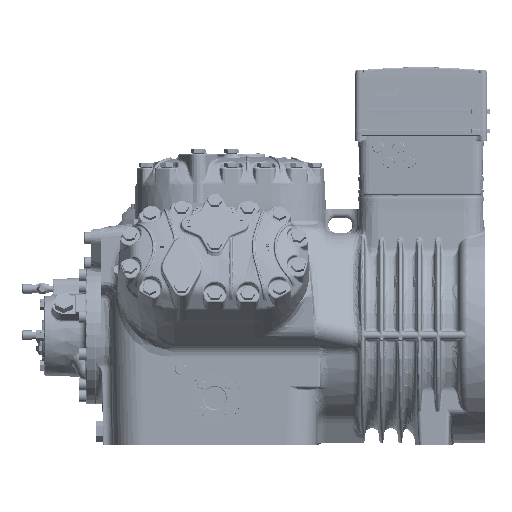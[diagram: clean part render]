
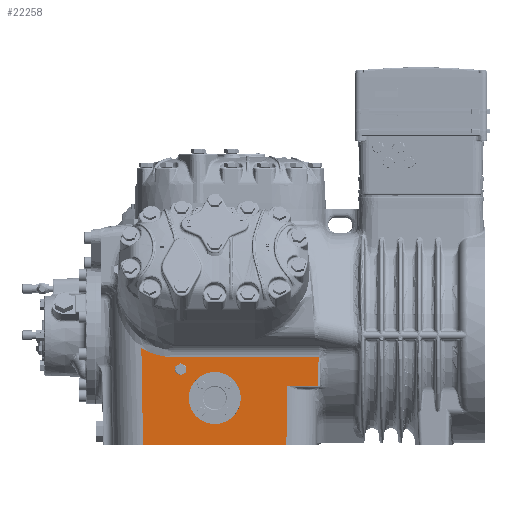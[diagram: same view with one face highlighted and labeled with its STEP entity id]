
A CAD part, front view. The second image highlights one B-rep face of the part: STEP entity #22258.
In plain terms, the highlighted planar face has unit normal (0, -1, -0.018).
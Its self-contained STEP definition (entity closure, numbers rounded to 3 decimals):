
#16375=ELLIPSE('',#155885,34.505,34.5);
#16389=ELLIPSE('',#155992,109.612,93.944);
#17533=FACE_BOUND('',#42246,.T.);
#17534=FACE_BOUND('',#42247,.T.);
#17535=FACE_BOUND('',#42248,.T.);
#22258=ADVANCED_FACE('',(#17533,#17534,#17535),#29377,.T.);
#29377=PLANE('',#155994);
#42246=EDGE_LOOP('',(#80235,#80236,#80237,#80238));
#42247=EDGE_LOOP('',(#80239));
#42248=EDGE_LOOP('',(#80240,#80241,#80242,#80243,#80244,#80245,#80246));
#57598=LINE('',#244553,#64169);
#57600=LINE('',#244556,#64171);
#57601=LINE('',#244558,#64172);
#57605=LINE('',#244675,#64176);
#57693=LINE('',#246883,#64281);
#57694=LINE('',#246885,#64282);
#64169=VECTOR('',#173428,1.);
#64171=VECTOR('',#173432,1.);
#64172=VECTOR('',#173435,1.);
#64176=VECTOR('',#173457,1.);
#64281=VECTOR('',#173764,1.);
#64282=VECTOR('',#173765,1.);
#80235=ORIENTED_EDGE('',*,*,#130563,.T.);
#80236=ORIENTED_EDGE('',*,*,#130564,.T.);
#80237=ORIENTED_EDGE('',*,*,#130565,.T.);
#80238=ORIENTED_EDGE('',*,*,#130566,.T.);
#80239=ORIENTED_EDGE('',*,*,#130306,.F.);
#80240=ORIENTED_EDGE('',*,*,#130567,.T.);
#80241=ORIENTED_EDGE('',*,*,#130568,.T.);
#80242=ORIENTED_EDGE('',*,*,#130320,.T.);
#80243=ORIENTED_EDGE('',*,*,#130305,.T.);
#80244=ORIENTED_EDGE('',*,*,#130304,.T.);
#80245=ORIENTED_EDGE('',*,*,#130302,.T.);
#80246=ORIENTED_EDGE('',*,*,#130555,.T.);
#114663=VERTEX_POINT('',#241808);
#114678=VERTEX_POINT('',#241944);
#114829=VERTEX_POINT('',#244530);
#114831=VERTEX_POINT('',#244552);
#114832=VERTEX_POINT('',#244561);
#114840=VERTEX_POINT('',#244676);
#114968=VERTEX_POINT('',#246716);
#114974=VERTEX_POINT('',#246858);
#114975=VERTEX_POINT('',#246859);
#114976=VERTEX_POINT('',#246870);
#114977=VERTEX_POINT('',#246876);
#114978=VERTEX_POINT('',#246884);
#130302=EDGE_CURVE('',#114829,#114831,#57598,.T.);
#130304=EDGE_CURVE('',#114663,#114829,#57600,.T.);
#130305=EDGE_CURVE('',#114678,#114663,#57601,.T.);
#130306=EDGE_CURVE('',#114832,#114832,#16375,.T.);
#130320=EDGE_CURVE('',#114840,#114678,#57605,.T.);
#130555=EDGE_CURVE('',#114831,#114968,#16389,.T.);
#130563=EDGE_CURVE('',#114974,#114975,#148895,.T.);
#130564=EDGE_CURVE('',#114975,#114976,#148896,.T.);
#130565=EDGE_CURVE('',#114976,#114977,#148897,.T.);
#130566=EDGE_CURVE('',#114977,#114974,#148898,.T.);
#130567=EDGE_CURVE('',#114968,#114978,#57693,.T.);
#130568=EDGE_CURVE('',#114978,#114840,#57694,.T.);
#148895=B_SPLINE_CURVE_WITH_KNOTS('',3,(#246848,#246849,#246850,#246851,
#246852,#246853,#246854,#246855,#246856,#246857),.UNSPECIFIED.,.F.,.F.,
(4,2,2,2,4),(0.,0.25,0.5,0.75,1.),.UNSPECIFIED.);
#148896=B_SPLINE_CURVE_WITH_KNOTS('',3,(#246860,#246861,#246862,#246863,
#246864,#246865,#246866,#246867,#246868,#246869),.UNSPECIFIED.,.F.,.F.,
(4,2,2,2,4),(0.,0.25,0.5,0.75,1.),.UNSPECIFIED.);
#148897=B_SPLINE_CURVE_WITH_KNOTS('',3,(#246871,#246872,#246873,#246874,
#246875),.UNSPECIFIED.,.F.,.F.,(4,1,4),(0.,0.5,1.),.UNSPECIFIED.);
#148898=B_SPLINE_CURVE_WITH_KNOTS('',3,(#246877,#246878,#246879,#246880,
#246881,#246882),.UNSPECIFIED.,.F.,.F.,(4,2,4),(0.,0.5,1.),
 .UNSPECIFIED.);
#155885=AXIS2_PLACEMENT_3D('',#244560,#173438,#173439);
#155992=AXIS2_PLACEMENT_3D('',#246718,#173760,#173761);
#155994=AXIS2_PLACEMENT_3D('',#246886,#173766,#173767);
#173428=DIRECTION('',(-1.,0.,0.));
#173432=DIRECTION('',(0.017,-0.017,1.));
#173435=DIRECTION('',(1.,0.,0.));
#173438=DIRECTION('',(0.,-1.,-0.017));
#173439=DIRECTION('',(0.,0.017,-1.));
#173457=DIRECTION('',(0.017,-0.017,1.));
#173760=DIRECTION('',(0.,1.,0.017));
#173761=DIRECTION('',(0.,0.017,-1.));
#173764=DIRECTION('',(0.017,0.017,-1.));
#173765=DIRECTION('',(1.,0.,0.));
#173766=DIRECTION('',(0.,-1.,-0.017));
#173767=DIRECTION('',(0.,0.017,-1.));
#241808=CARTESIAN_POINT('',(-93.948,-126.361,-67.052));
#241944=CARTESIAN_POINT('',(-134.633,-126.361,-67.052));
#244530=CARTESIAN_POINT('',(-93.284,-127.025,-29.007));
#244552=CARTESIAN_POINT('',(-285.,-127.025,-29.007));
#244553=CARTESIAN_POINT('',(-108.5,-127.025,-29.007));
#244556=CARTESIAN_POINT('',(-95.313,-124.996,-145.23));
#244558=CARTESIAN_POINT('',(-108.5,-126.361,-67.052));
#244560=CARTESIAN_POINT('',(-231.,-126.082,-83.));
#244561=CARTESIAN_POINT('',(-231.,-125.48,-117.5));
#244675=CARTESIAN_POINT('',(-135.986,-125.008,-144.52));
#244676=CARTESIAN_POINT('',(-135.994,-125.,-145.));
#246716=CARTESIAN_POINT('',(-328.245,-127.239,-16.705));
#246718=CARTESIAN_POINT('',(-285.,-128.938,80.588));
#246848=CARTESIAN_POINT('',(-282.858,-126.745,-45.011));
#246849=CARTESIAN_POINT('',(-282.861,-126.777,-43.19));
#246850=CARTESIAN_POINT('',(-282.139,-126.808,-41.442));
#246851=CARTESIAN_POINT('',(-279.568,-126.853,-38.867));
#246852=CARTESIAN_POINT('',(-277.819,-126.865,-38.142));
#246853=CARTESIAN_POINT('',(-274.18,-126.865,-38.142));
#246854=CARTESIAN_POINT('',(-272.432,-126.853,-38.867));
#246855=CARTESIAN_POINT('',(-269.861,-126.808,-41.443));
#246856=CARTESIAN_POINT('',(-269.139,-126.777,-43.192));
#246857=CARTESIAN_POINT('',(-269.142,-126.745,-45.012));
#246858=CARTESIAN_POINT('',(-282.858,-126.745,-45.011));
#246859=CARTESIAN_POINT('',(-269.142,-126.745,-45.012));
#246860=CARTESIAN_POINT('',(-269.142,-126.745,-45.012));
#246861=CARTESIAN_POINT('',(-269.139,-126.717,-46.621));
#246862=CARTESIAN_POINT('',(-269.732,-126.689,-48.228));
#246863=CARTESIAN_POINT('',(-271.79,-126.647,-50.668));
#246864=CARTESIAN_POINT('',(-273.297,-126.632,-51.518));
#246865=CARTESIAN_POINT('',(-276.439,-126.622,-52.053));
#246866=CARTESIAN_POINT('',(-278.128,-126.628,-51.726));
#246867=CARTESIAN_POINT('',(-280.888,-126.657,-50.097));
#246868=CARTESIAN_POINT('',(-281.949,-126.679,-48.783));
#246869=CARTESIAN_POINT('',(-282.481,-126.706,-47.25));
#246870=CARTESIAN_POINT('',(-282.48,-126.706,-47.25));
#246871=CARTESIAN_POINT('',(-282.481,-126.706,-47.25));
#246872=CARTESIAN_POINT('',(-282.533,-126.709,-47.099));
#246873=CARTESIAN_POINT('',(-282.627,-126.714,-46.797));
#246874=CARTESIAN_POINT('',(-282.699,-126.719,-46.491));
#246875=CARTESIAN_POINT('',(-282.729,-126.722,-46.337));
#246876=CARTESIAN_POINT('',(-282.727,-126.722,-46.337));
#246877=CARTESIAN_POINT('',(-282.729,-126.722,-46.337));
#246878=CARTESIAN_POINT('',(-282.772,-126.726,-46.12));
#246879=CARTESIAN_POINT('',(-282.805,-126.73,-45.9));
#246880=CARTESIAN_POINT('',(-282.848,-126.738,-45.458));
#246881=CARTESIAN_POINT('',(-282.858,-126.741,-45.235));
#246882=CARTESIAN_POINT('',(-282.858,-126.745,-45.011));
#246883=CARTESIAN_POINT('',(-325.94,-124.934,-148.794));
#246884=CARTESIAN_POINT('',(-326.006,-125.,-145.));
#246885=CARTESIAN_POINT('',(-108.5,-125.,-145.));
#246886=CARTESIAN_POINT('',(-108.5,-125.,-145.));
